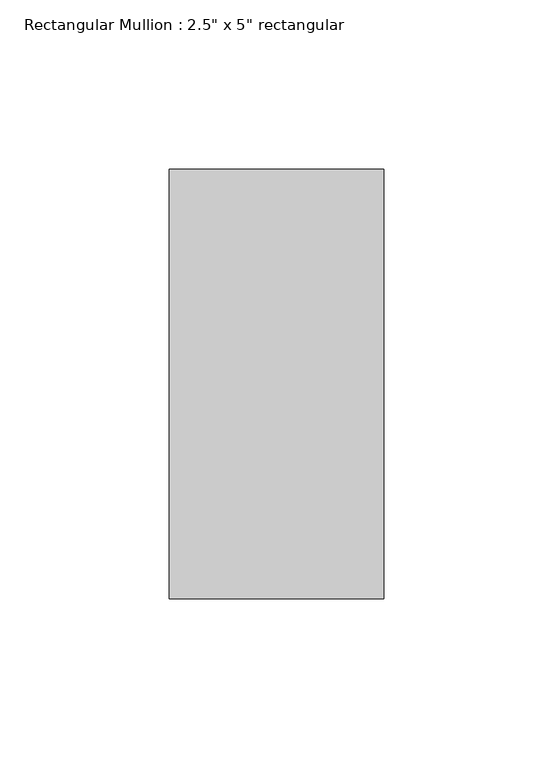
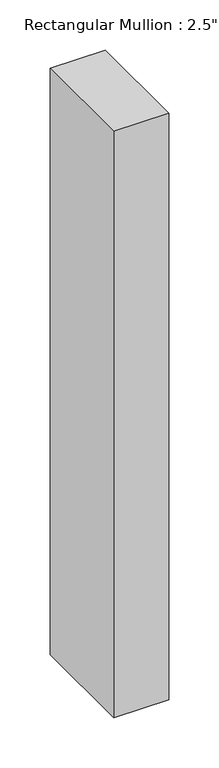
"""IFC4 building model written with IfcOpenShell, lengths in millimetres: member geometry."""

from ifc_helpers import new_model, si_unit, frame, origin, place, context, project, spatial, polyline, outline, extrude, source, transform, mapped, element, save


def member_9519f3ea(model_context):
    return source(origin(), model_context, "Body", "SweptSolid", [
        extrude(outline(polyline([(0.0, 63.5), (0.0, -63.5), (-63.5, -63.5), (-63.5, 63.5), (0.0, 63.5)])), frame((0.0, 0.0, -714.9944518), z_axis=(0.0, 0.0, 1.0), x_axis=(1.0, 0.0, 0.0)), (0.0, 0.0, 1.0), 714.9944518),
    ])


if __name__ == "__main__":
    model = new_model("IFC4")
    model_context = context("Model", 3, world=origin())
    ifc_project = project(units=[si_unit("LENGTHUNIT", "METRE", prefix="MILLI")], contexts=[model_context])
    site = spatial("IfcSite", under=ifc_project)
    building = spatial("IfcBuilding", under=site)
    placement = place(None, origin())
    member_shape = member_9519f3ea(model_context)
    element("IfcMember", 1, ObjectType="Rectangular Mullion : 2.5\" x 5\" rectangular", at=placement, inside=building, context=model_context, shape_type="MappedRepresentation", body=[
        mapped(member_shape, transform((0.0, 0.0, 0.0), x_axis=(1.0, 0.0, 0.0), y_axis=(0.0, 1.0, 0.0), z_axis=(0.0, 0.0, 1.0))),
    ])
    save(model, "model.ifc")
